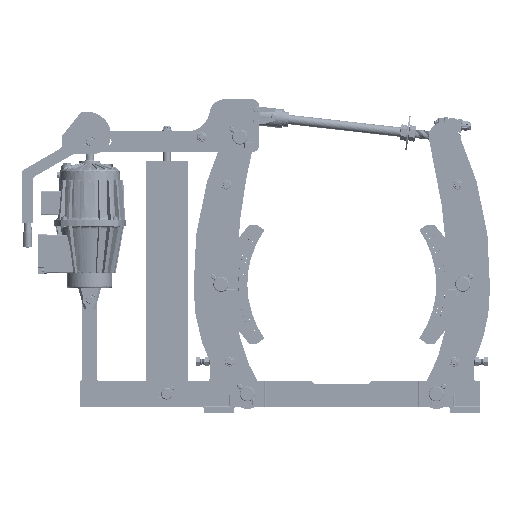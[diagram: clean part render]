
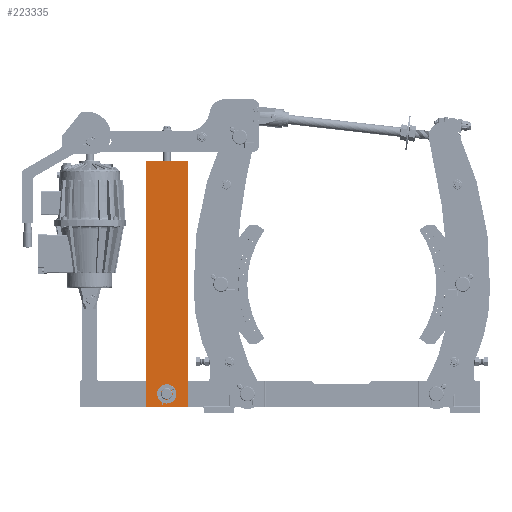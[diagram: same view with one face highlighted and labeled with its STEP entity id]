
A CAD part, left-side view. The second image highlights one B-rep face of the part: STEP entity #223335.
In plain terms, the highlighted planar face has unit normal (-1, 0, 0).
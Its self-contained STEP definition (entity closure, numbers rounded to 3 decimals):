
#223166=DIRECTION('',(0.,-1.,0.));
#223167=VECTOR('',#223166,110.);
#223168=CARTESIAN_POINT('',(-145.,883.002,665.));
#223169=LINE('',#223168,#223167);
#223173=DIRECTION('',(0.,0.,-1.));
#223174=VECTOR('',#223173,650.);
#223175=CARTESIAN_POINT('',(-145.,773.002,665.));
#223176=LINE('',#223175,#223174);
#223180=DIRECTION('',(0.,1.,0.));
#223181=VECTOR('',#223180,110.);
#223182=CARTESIAN_POINT('',(-145.,773.002,15.));
#223183=LINE('',#223182,#223181);
#223187=DIRECTION('',(0.,0.,1.));
#223188=VECTOR('',#223187,650.);
#223189=CARTESIAN_POINT('',(-145.,883.002,15.));
#223190=LINE('',#223189,#223188);
#223194=CARTESIAN_POINT('',(-145.,813.002,50.));
#223195=CARTESIAN_POINT('',(-145.,813.002,50.414));
#223196=CARTESIAN_POINT('',(-145.,813.036,51.24));
#223197=CARTESIAN_POINT('',(-145.,813.19,52.473));
#223198=CARTESIAN_POINT('',(-145.,813.445,53.688));
#223199=CARTESIAN_POINT('',(-145.,813.799,54.876));
#223200=CARTESIAN_POINT('',(-145.,814.251,56.035));
#223201=CARTESIAN_POINT('',(-145.,814.797,57.151));
#223202=CARTESIAN_POINT('',(-145.,815.433,58.218));
#223203=CARTESIAN_POINT('',(-145.,816.154,59.228));
#223204=CARTESIAN_POINT('',(-145.,816.957,60.174));
#223205=CARTESIAN_POINT('',(-145.,817.834,61.051));
#223206=CARTESIAN_POINT('',(-145.,818.781,61.853));
#223207=CARTESIAN_POINT('',(-145.,819.79,62.573));
#223208=CARTESIAN_POINT('',(-145.,820.856,63.208));
#223209=CARTESIAN_POINT('',(-145.,821.971,63.753));
#223210=CARTESIAN_POINT('',(-145.,823.128,64.204));
#223211=CARTESIAN_POINT('',(-145.,824.315,64.557));
#223212=CARTESIAN_POINT('',(-145.,825.529,64.812));
#223213=CARTESIAN_POINT('',(-145.,826.761,64.966));
#223214=CARTESIAN_POINT('',(-145.,827.587,65.));
#223215=CARTESIAN_POINT('',(-145.,828.002,65.));
#223220=CARTESIAN_POINT('',(-145.,828.002,65.));
#223221=CARTESIAN_POINT('',(-145.,828.416,65.));
#223222=CARTESIAN_POINT('',(-145.,829.242,64.966));
#223223=CARTESIAN_POINT('',(-145.,830.475,64.812));
#223224=CARTESIAN_POINT('',(-145.,831.69,64.557));
#223225=CARTESIAN_POINT('',(-145.,832.878,64.203));
#223226=CARTESIAN_POINT('',(-145.,834.037,63.751));
#223227=CARTESIAN_POINT('',(-145.,835.153,63.205));
#223228=CARTESIAN_POINT('',(-145.,836.219,62.569));
#223229=CARTESIAN_POINT('',(-145.,837.23,61.847));
#223230=CARTESIAN_POINT('',(-145.,838.176,61.045));
#223231=CARTESIAN_POINT('',(-145.,839.053,60.168));
#223232=CARTESIAN_POINT('',(-145.,839.854,59.221));
#223233=CARTESIAN_POINT('',(-145.,840.575,58.211));
#223234=CARTESIAN_POINT('',(-145.,841.21,57.146));
#223235=CARTESIAN_POINT('',(-145.,841.755,56.031));
#223236=CARTESIAN_POINT('',(-145.,842.206,54.874));
#223237=CARTESIAN_POINT('',(-145.,842.559,53.687));
#223238=CARTESIAN_POINT('',(-145.,842.814,52.473));
#223239=CARTESIAN_POINT('',(-145.,842.968,51.241));
#223240=CARTESIAN_POINT('',(-145.,843.002,50.415));
#223241=CARTESIAN_POINT('',(-145.,843.002,50.));
#223246=CARTESIAN_POINT('',(-145.,843.002,50.));
#223247=CARTESIAN_POINT('',(-145.,843.002,49.586));
#223248=CARTESIAN_POINT('',(-145.,842.968,48.76));
#223249=CARTESIAN_POINT('',(-145.,842.814,47.527));
#223250=CARTESIAN_POINT('',(-145.,842.559,46.312));
#223251=CARTESIAN_POINT('',(-145.,842.205,45.124));
#223252=CARTESIAN_POINT('',(-145.,841.753,43.965));
#223253=CARTESIAN_POINT('',(-145.,841.207,42.849));
#223254=CARTESIAN_POINT('',(-145.,840.571,41.782));
#223255=CARTESIAN_POINT('',(-145.,839.849,40.772));
#223256=CARTESIAN_POINT('',(-145.,839.047,39.826));
#223257=CARTESIAN_POINT('',(-145.,838.17,38.949));
#223258=CARTESIAN_POINT('',(-145.,837.223,38.147));
#223259=CARTESIAN_POINT('',(-145.,836.213,37.427));
#223260=CARTESIAN_POINT('',(-145.,835.147,36.792));
#223261=CARTESIAN_POINT('',(-145.,834.033,36.247));
#223262=CARTESIAN_POINT('',(-145.,832.876,35.796));
#223263=CARTESIAN_POINT('',(-145.,831.689,35.443));
#223264=CARTESIAN_POINT('',(-145.,830.475,35.188));
#223265=CARTESIAN_POINT('',(-145.,829.243,35.034));
#223266=CARTESIAN_POINT('',(-145.,828.417,35.));
#223267=CARTESIAN_POINT('',(-145.,828.002,35.));
#223272=CARTESIAN_POINT('',(-145.,828.002,35.));
#223273=CARTESIAN_POINT('',(-145.,827.587,35.));
#223274=CARTESIAN_POINT('',(-145.,826.762,35.034));
#223275=CARTESIAN_POINT('',(-145.,825.529,35.188));
#223276=CARTESIAN_POINT('',(-145.,824.314,35.443));
#223277=CARTESIAN_POINT('',(-145.,823.125,35.797));
#223278=CARTESIAN_POINT('',(-145.,821.967,36.249));
#223279=CARTESIAN_POINT('',(-145.,820.851,36.795));
#223280=CARTESIAN_POINT('',(-145.,819.784,37.431));
#223281=CARTESIAN_POINT('',(-145.,818.774,38.153));
#223282=CARTESIAN_POINT('',(-145.,817.828,38.955));
#223283=CARTESIAN_POINT('',(-145.,816.951,39.832));
#223284=CARTESIAN_POINT('',(-145.,816.149,40.779));
#223285=CARTESIAN_POINT('',(-145.,815.429,41.789));
#223286=CARTESIAN_POINT('',(-145.,814.794,42.854));
#223287=CARTESIAN_POINT('',(-145.,814.249,43.969));
#223288=CARTESIAN_POINT('',(-145.,813.798,45.126));
#223289=CARTESIAN_POINT('',(-145.,813.444,46.313));
#223290=CARTESIAN_POINT('',(-145.,813.19,47.527));
#223291=CARTESIAN_POINT('',(-145.,813.036,48.759));
#223292=CARTESIAN_POINT('',(-145.,813.002,49.585));
#223293=CARTESIAN_POINT('',(-145.,813.002,50.));
#223298=CARTESIAN_POINT('',(-145.,883.002,665.));
#223299=CARTESIAN_POINT('',(-145.,773.002,665.));
#223300=VERTEX_POINT('',#223298);
#223301=VERTEX_POINT('',#223299);
#223302=CARTESIAN_POINT('',(-145.,773.002,15.));
#223303=VERTEX_POINT('',#223302);
#223304=CARTESIAN_POINT('',(-145.,883.002,15.));
#223305=VERTEX_POINT('',#223304);
#223306=VERTEX_POINT('',#223194);
#223307=VERTEX_POINT('',#223215);
#223308=VERTEX_POINT('',#223241);
#223309=VERTEX_POINT('',#223267);
#223310=CARTESIAN_POINT('',(-145.,828.002,340.));
#223311=DIRECTION('',(1.,0.,0.));
#223312=DIRECTION('',(0.,0.,1.));
#223313=AXIS2_PLACEMENT_3D('',#223310,#223311,#223312);
#223314=PLANE('',#223313);
#223316=ORIENTED_EDGE('',*,*,#223315,.T.);
#223318=ORIENTED_EDGE('',*,*,#223317,.T.);
#223320=ORIENTED_EDGE('',*,*,#223319,.T.);
#223322=ORIENTED_EDGE('',*,*,#223321,.T.);
#223323=EDGE_LOOP('',(#223316,#223318,#223320,#223322));
#223324=FACE_OUTER_BOUND('',#223323,.F.);
#223326=ORIENTED_EDGE('',*,*,#223325,.T.);
#223328=ORIENTED_EDGE('',*,*,#223327,.T.);
#223330=ORIENTED_EDGE('',*,*,#223329,.T.);
#223332=ORIENTED_EDGE('',*,*,#223331,.T.);
#223333=EDGE_LOOP('',(#223326,#223328,#223330,#223332));
#223334=FACE_BOUND('',#223333,.F.);
#223335=ADVANCED_FACE('',(#223324,#223334),#223314,.F.);
#223216=B_SPLINE_CURVE_WITH_KNOTS('',3,(#223194,#223195,#223196,#223197,#223198,
#223199,#223200,#223201,#223202,#223203,#223204,#223205,#223206,#223207,#223208,
#223209,#223210,#223211,#223212,#223213,#223214,#223215),.UNSPECIFIED.,.F.,.F.,(
4,1,1,1,1,1,1,1,1,1,1,1,1,1,1,1,1,1,1,4),(0.,0.053,
0.105,0.158,0.211,0.263,
0.316,0.368,0.421,0.474,
0.526,0.579,0.632,0.684,
0.737,0.789,0.842,0.895,
0.947,1.),.UNSPECIFIED.);
#223242=B_SPLINE_CURVE_WITH_KNOTS('',3,(#223220,#223221,#223222,#223223,#223224,
#223225,#223226,#223227,#223228,#223229,#223230,#223231,#223232,#223233,#223234,
#223235,#223236,#223237,#223238,#223239,#223240,#223241),.UNSPECIFIED.,.F.,.F.,(
4,1,1,1,1,1,1,1,1,1,1,1,1,1,1,1,1,1,1,4),(0.,0.053,
0.105,0.158,0.211,0.263,
0.316,0.368,0.421,0.474,
0.526,0.579,0.632,0.684,
0.737,0.789,0.842,0.895,
0.947,1.),.UNSPECIFIED.);
#223268=B_SPLINE_CURVE_WITH_KNOTS('',3,(#223246,#223247,#223248,#223249,#223250,
#223251,#223252,#223253,#223254,#223255,#223256,#223257,#223258,#223259,#223260,
#223261,#223262,#223263,#223264,#223265,#223266,#223267),.UNSPECIFIED.,.F.,.F.,(
4,1,1,1,1,1,1,1,1,1,1,1,1,1,1,1,1,1,1,4),(0.,0.053,
0.105,0.158,0.211,0.263,
0.316,0.368,0.421,0.474,
0.526,0.579,0.632,0.684,
0.737,0.789,0.842,0.895,
0.947,1.),.UNSPECIFIED.);
#223294=B_SPLINE_CURVE_WITH_KNOTS('',3,(#223272,#223273,#223274,#223275,#223276,
#223277,#223278,#223279,#223280,#223281,#223282,#223283,#223284,#223285,#223286,
#223287,#223288,#223289,#223290,#223291,#223292,#223293),.UNSPECIFIED.,.F.,.F.,(
4,1,1,1,1,1,1,1,1,1,1,1,1,1,1,1,1,1,1,4),(0.,0.053,
0.105,0.158,0.211,0.263,
0.316,0.368,0.421,0.474,
0.526,0.579,0.632,0.684,
0.737,0.789,0.842,0.895,
0.947,1.),.UNSPECIFIED.);
#223315=EDGE_CURVE('',#223300,#223301,#223169,.T.);
#223317=EDGE_CURVE('',#223301,#223303,#223176,.T.);
#223319=EDGE_CURVE('',#223303,#223305,#223183,.T.);
#223321=EDGE_CURVE('',#223305,#223300,#223190,.T.);
#223325=EDGE_CURVE('',#223306,#223307,#223216,.T.);
#223327=EDGE_CURVE('',#223307,#223308,#223242,.T.);
#223329=EDGE_CURVE('',#223308,#223309,#223268,.T.);
#223331=EDGE_CURVE('',#223309,#223306,#223294,.T.);
